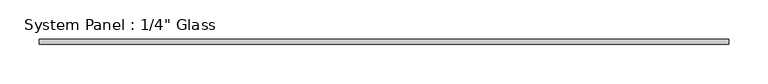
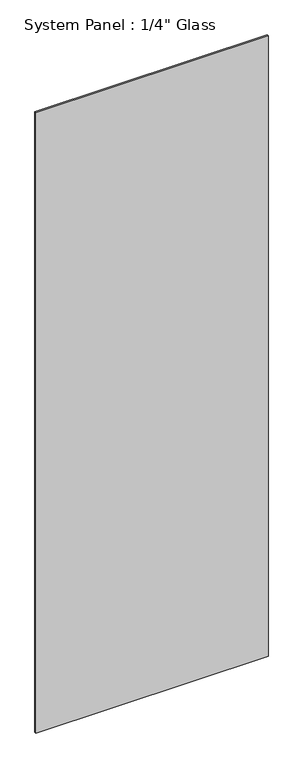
"""IFC4 building model written with IfcOpenShell, lengths in millimetres: plate geometry."""

import ifcopenshell
import ifcopenshell.guid

model = None  # the IFC model being written
_history = None  # IfcOwnerHistory: only IFC2X3 demands one
_inside = {}  # id of a spatial element -> (the spatial element, [elements in it])
_under = {}  # id of a project, library or spatial element -> (it, [spatial elements below it])
_declared = {}  # id of a project -> (the project, [libraries it declares])
_typed = {}  # id of a type object -> (the type object, [elements of that type])
_made_of = {}  # id of a material, layer set ... -> (it, [elements and type objects made of it])


def new_model(schema):
    """Start an empty IFC model of exactly this schema.

    Asked for "IFC4X3", IfcOpenShell would pick the latest addendum, in which some entities
    have other attributes; the version numbers below select the first issue.
    IFC2X3 requires an IfcOwnerHistory on every rooted entity: one is made here for all.
    """
    global model, _history
    if schema == "IFC4X3":
        model = ifcopenshell.file(schema_version=(4, 3, 0, 0))
    else:
        model = ifcopenshell.file(schema=schema)
    _inside.clear()
    _under.clear()
    _declared.clear()
    _typed.clear()
    _made_of.clear()
    _history = None
    if model.schema == "IFC2X3":
        org = make("IfcOrganization", Name="unknown")
        user = make(
            "IfcPersonAndOrganization",
            ThePerson=make("IfcPerson", FamilyName="unknown"),
            TheOrganization=org,
        )
        app = make(
            "IfcApplication",
            ApplicationDeveloper=org,
            Version="unknown",
            ApplicationFullName="unknown",
            ApplicationIdentifier="unknown",
        )
        _history = make(
            "IfcOwnerHistory",
            OwningUser=user,
            OwningApplication=app,
            ChangeAction="ADDED",
            CreationDate=0,
        )
    return model


def make(cls, **values):
    """One entity of the class cls with the attributes given. An attribute that is None is left unset."""
    return model.create_entity(
        cls, **{name: value for name, value in values.items() if value is not None}
    )


def rooted(cls, **values):
    """An entity with a GlobalId (a new one), such as an element, a storey or a relation."""
    return make(cls, GlobalId=ifcopenshell.guid.new(), OwnerHistory=_history, **values)


def si_unit(unit_type, name, prefix=None):
    """IfcSIUnit, for example si_unit("LENGTHUNIT", "METRE", prefix="MILLI")."""
    return make("IfcSIUnit", UnitType=unit_type, Prefix=prefix, Name=name)


def assignment(units):
    """IfcUnitAssignment: the units of a project."""
    return None if units is None else make("IfcUnitAssignment", Units=units)


def point(xyz):
    """IfcCartesianPoint."""
    return None if xyz is None else make("IfcCartesianPoint", Coordinates=xyz)


def direction(xyz):
    """IfcDirection."""
    return None if xyz is None else make("IfcDirection", DirectionRatios=xyz)


def frame(location, z_axis=None, x_axis=None):
    """IfcAxis2Placement3D, a coordinate frame: its origin and axes. An axis left out is left unset."""
    return make(
        "IfcAxis2Placement3D",
        Location=point(location),
        Axis=direction(z_axis),
        RefDirection=direction(x_axis),
    )


def origin():
    """The frame at (0, 0, 0) with its axes left unset."""
    return frame((0.0, 0.0, 0.0))


def origin_with_axes():
    """The frame at (0, 0, 0) with the z axis (0, 0, 1) and the x axis (1, 0, 0) written out."""
    return frame((0.0, 0.0, 0.0), z_axis=(0.0, 0.0, 1.0), x_axis=(1.0, 0.0, 0.0))


def place(relative_to, where):
    """IfcLocalPlacement: puts the frame where relative to a parent placement (None: the world)."""
    return make(
        "IfcLocalPlacement", PlacementRelTo=relative_to, RelativePlacement=where
    )


def context(
    kind, dimensions, precision=None, world=None, true_north=None, identifier=None
):
    """IfcGeometricRepresentationContext, for example the 3D "Model" context."""
    return make(
        "IfcGeometricRepresentationContext",
        ContextIdentifier=identifier,
        ContextType=kind,
        CoordinateSpaceDimension=dimensions,
        Precision=precision,
        WorldCoordinateSystem=world,
        TrueNorth=true_north,
    )


def project(units=None, contexts=None):
    """IfcProject with its units and contexts."""
    return rooted(
        "IfcProject",
        Name="project",
        RepresentationContexts=contexts,
        UnitsInContext=assignment(units),
    )


def spatial(cls, under=None, at=None, **own):
    """A site, building, storey or space (cls), placed at a placement, below another one or the project."""
    s = rooted(cls, ObjectPlacement=at, **own)
    if under is not None:
        _under.setdefault(under.id(), (under, []))[1].append(s)
    return s


def polyline(points):
    """IfcPolyline through the points."""
    return make("IfcPolyline", Points=[point(p) for p in points])


def outline(outer, holes=None, kind="AREA"):
    """IfcArbitraryClosedProfileDef: a profile drawn as a closed curve; with holes, ...WithVoids."""
    if holes is None:
        return make("IfcArbitraryClosedProfileDef", ProfileType=kind, OuterCurve=outer)
    return make(
        "IfcArbitraryProfileDefWithVoids",
        ProfileType=kind,
        OuterCurve=outer,
        InnerCurves=holes,
    )


def extrude(swept, where, along, depth):
    """IfcExtrudedAreaSolid: the profile swept, set in the frame where, extruded along a direction by depth."""
    return make(
        "IfcExtrudedAreaSolid",
        SweptArea=swept,
        Position=where,
        ExtrudedDirection=direction(along),
        Depth=depth,
    )


def shape(context_of_items, identifier, shape_type, items):
    """IfcShapeRepresentation: the items that make up one representation, for example the "Body"."""
    return make(
        "IfcShapeRepresentation",
        ContextOfItems=context_of_items,
        RepresentationIdentifier=identifier,
        RepresentationType=shape_type,
        Items=items,
    )


def source(mapping_origin, context_of_items, identifier, shape_type, items):
    """IfcRepresentationMap: a shape defined once, which mapped items show again and again."""
    return make(
        "IfcRepresentationMap",
        MappingOrigin=mapping_origin,
        MappedRepresentation=shape(context_of_items, identifier, shape_type, items),
    )


def transform(
    local_origin,
    x_axis=None,
    y_axis=None,
    z_axis=None,
    scale=None,
    scale2=None,
    scale3=None,
    uniform=True,
):
    """IfcCartesianTransformationOperator3D, or its non-uniform kind. x_axis, y_axis, z_axis: its Axis1, 2, 3."""
    if uniform:
        return make(
            "IfcCartesianTransformationOperator3D",
            Axis1=direction(x_axis),
            Axis2=direction(y_axis),
            LocalOrigin=point(local_origin),
            Scale=scale,
            Axis3=direction(z_axis),
        )
    return make(
        "IfcCartesianTransformationOperator3DnonUniform",
        Axis1=direction(x_axis),
        Axis2=direction(y_axis),
        LocalOrigin=point(local_origin),
        Scale=scale,
        Axis3=direction(z_axis),
        Scale2=scale2,
        Scale3=scale3,
    )


def mapped(mapping_source, mapping_target):
    """IfcMappedItem: shows the shape of a source again, moved by a transform."""
    return make(
        "IfcMappedItem", MappingSource=mapping_source, MappingTarget=mapping_target
    )


def made_of(thing, what):
    """Note that an element or type object is made of a material, layer set ...; save() writes the relation."""
    if what is not None:
        _made_of.setdefault(what.id(), (what, []))[1].append(thing)
    return thing


def element(
    cls,
    number,
    at=None,
    inside=None,
    cuts=None,
    type_object=None,
    material=None,
    context=None,
    identifier="Body",
    shape_type=None,
    held_by="IfcProductDefinitionShape",
    body=None,
    shapes=None,
    **own,
):
    """One element of the class cls, such as IfcWall. Its Tag is "e" and its number.

    at: its placement. inside: the storey or other place that contains it. cuts: it is an
    opening in that element (IfcRelVoidsElement). A single representation is given by context,
    identifier, shape_type and body (its items); several are given by shapes. held_by: the class
    of the entity that holds the representations. save() writes the other relations.
    """
    e = rooted(cls, Tag="e%d" % number, ObjectPlacement=at, **own)
    if body is not None:
        shapes = [shape(context, identifier, shape_type, body)]
    if shapes is not None:
        e.Representation = make(held_by, Representations=shapes)
    if inside is not None:
        _inside.setdefault(inside.id(), (inside, []))[1].append(e)
    if cuts is not None:
        rooted(
            "IfcRelVoidsElement", RelatingBuildingElement=cuts, RelatedOpeningElement=e
        )
    if type_object is not None:
        _typed.setdefault(type_object.id(), (type_object, []))[1].append(e)
    return made_of(e, material)


def aggregate(whole, parts):
    """IfcRelAggregates: a whole, such as a stair, and the parts it consists of."""
    return rooted("IfcRelAggregates", RelatingObject=whole, RelatedObjects=parts)


def save(model, path):
    """Write the relations noted so far, then the file.

    IfcRelAggregates (storeys below a building ...), IfcRelContainedInSpatialStructure (elements
    in a storey), IfcRelDefinesByType, IfcRelAssociatesMaterial and IfcRelDeclares: one each for
    every whole, place, type object, material and project.
    """
    for whole, parts in _under.values():
        aggregate(whole, parts)
    for where, things in _inside.values():
        rooted(
            "IfcRelContainedInSpatialStructure",
            RelatedElements=things,
            RelatingStructure=where,
        )
    for kind, things in _typed.values():
        rooted("IfcRelDefinesByType", RelatedObjects=things, RelatingType=kind)
    for what, things in _made_of.values():
        rooted("IfcRelAssociatesMaterial", RelatedObjects=things, RelatingMaterial=what)
    for by, libraries in _declared.values():
        rooted("IfcRelDeclares", RelatingContext=by, RelatedDefinitions=libraries)
    model.write(path)


def plate_4fb64caf(model_context):
    return source(origin(), model_context, "Body", "SweptSolid", [
        extrude(outline(polyline([(440.5624954, -3.175), (-440.5624954, -3.175), (-440.5624954, 3.175), (440.5624954, 3.175), (440.5624954, -3.175)])), origin_with_axes(), (0.0, 0.0, 1.0), 2489.2),
    ])


if __name__ == "__main__":
    model = new_model("IFC4")
    model_context = context("Model", 3, world=origin())
    ifc_project = project(units=[si_unit("LENGTHUNIT", "METRE", prefix="MILLI")], contexts=[model_context])
    site = spatial("IfcSite", under=ifc_project)
    building = spatial("IfcBuilding", under=site)
    placement = place(None, origin())
    plate_shape = plate_4fb64caf(model_context)
    element("IfcPlate", 1, ObjectType="System Panel : 1/4\" Glass", at=placement, inside=building, context=model_context, shape_type="MappedRepresentation", body=[
        mapped(plate_shape, transform((0.0, 0.0, 0.0), x_axis=(1.0, 0.0, 0.0), y_axis=(0.0, 1.0, 0.0), z_axis=(0.0, 0.0, 1.0))),
    ])
    save(model, "model.ifc")
